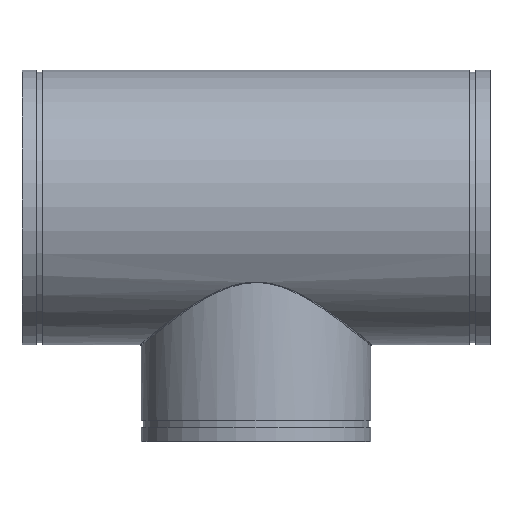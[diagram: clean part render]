
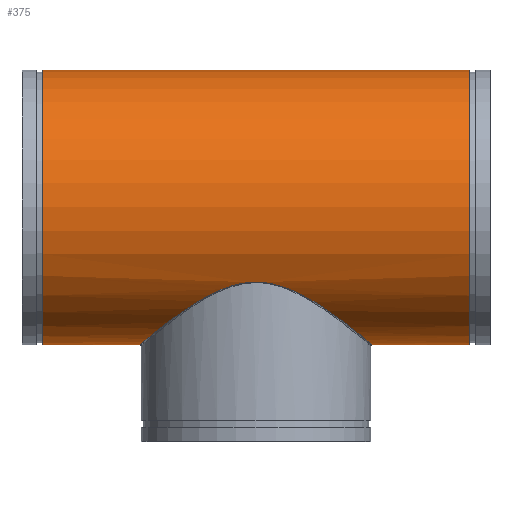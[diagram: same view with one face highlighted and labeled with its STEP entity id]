
A CAD part, top view. The second image highlights one B-rep face of the part: STEP entity #375.
In plain terms, the highlighted cylindrical face has radius 327.66 mm (diameter 655.32 mm), a full revolution.
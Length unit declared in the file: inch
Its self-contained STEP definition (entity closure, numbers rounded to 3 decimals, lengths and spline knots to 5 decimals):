
#54=FACE_BOUND('',#119,.T.);
#65=LINE('',#952,#76);
#76=VECTOR('',#483,12.9);
#87=CYLINDRICAL_SURFACE('',#415,12.9);
#98=FACE_OUTER_BOUND('',#118,.T.);
#118=EDGE_LOOP('',(#266,#267,#268,#269));
#119=EDGE_LOOP('',(#270));
#150=B_SPLINE_CURVE_WITH_KNOTS('',3,(#901,#902,#903,#904,#905,#906,#907,
#908,#909,#910,#911,#912,#913,#914,#915,#916,#917,#918,#919,#920,#921,#922,
#923,#924,#925,#926,#927,#928,#929,#930,#931,#932,#933,#934,#935,#936,#937,
#938,#939,#940,#941,#942,#943,#944,#945,#946,#947),.UNSPECIFIED.,.T.,.F.,
(4,1,1,1,1,1,1,1,1,1,1,1,1,1,1,1,1,1,1,1,1,1,1,1,1,1,1,1,1,1,1,1,1,1,1,
1,1,1,1,1,1,1,1,1,4),(-179.33943,-176.13694,-172.93445,
-169.73196,-166.52947,-160.12449,-153.71951,-146.60287,
-145.17954,-140.90955,-136.63957,-132.36958,
-128.09959,-123.82961,-119.55962,-111.01965,
-106.74966,-102.47968,-100.34468,-99.27719,
-98.20969,-93.9397,-91.09305,-88.24639,
-85.39973,-81.12974,-76.85976,-72.58977,
-68.31978,-64.0498,-59.77981,-56.93315,
-51.23984,-46.96985,-42.69986,-38.42988,
-34.15989,-31.31323,-25.61992,-19.21494,
-12.80996,-9.60747,-6.40498,-3.20249,
0.),.UNSPECIFIED.);
#154=CIRCLE('',#416,12.9);
#155=CIRCLE('',#417,12.9);
#182=VERTEX_POINT('',#846);
#185=VERTEX_POINT('',#949);
#186=VERTEX_POINT('',#951);
#219=EDGE_CURVE('',#182,#182,#150,.T.);
#220=EDGE_CURVE('',#185,#185,#154,.T.);
#221=EDGE_CURVE('',#185,#186,#65,.T.);
#222=EDGE_CURVE('',#186,#186,#155,.T.);
#266=ORIENTED_EDGE('',*,*,#220,.T.);
#267=ORIENTED_EDGE('',*,*,#221,.T.);
#268=ORIENTED_EDGE('',*,*,#222,.T.);
#269=ORIENTED_EDGE('',*,*,#221,.F.);
#270=ORIENTED_EDGE('',*,*,#219,.F.);
#375=ADVANCED_FACE('',(#98,#54),#87,.T.);
#415=AXIS2_PLACEMENT_3D('',#948,#479,#480);
#416=AXIS2_PLACEMENT_3D('',#950,#481,#482);
#417=AXIS2_PLACEMENT_3D('',#953,#484,#485);
#479=DIRECTION('center_axis',(-1.,0.,0.));
#480=DIRECTION('ref_axis',(0.,-1.,0.));
#481=DIRECTION('center_axis',(1.,0.,0.));
#482=DIRECTION('ref_axis',(0.,-1.,0.));
#483=DIRECTION('',(1.,0.,0.));
#484=DIRECTION('center_axis',(-1.,0.,0.));
#485=DIRECTION('ref_axis',(0.,-1.,0.));
#846=CARTESIAN_POINT('',(0.,-7.02384,-10.82015));
#901=CARTESIAN_POINT('Ctrl Pts',(0.,-7.02384,
-10.82015));
#902=CARTESIAN_POINT('Ctrl Pts',(0.43724,-7.02384,-10.82015));
#903=CARTESIAN_POINT('Ctrl Pts',(1.31136,-7.10574,-10.76755));
#904=CARTESIAN_POINT('Ctrl Pts',(2.56391,-7.44056,-10.54204));
#905=CARTESIAN_POINT('Ctrl Pts',(3.73491,-7.9176,-10.19145));
#906=CARTESIAN_POINT('Ctrl Pts',(5.1868,-8.66856,-9.57764));
#907=CARTESIAN_POINT('Ctrl Pts',(6.81476,-9.7138,-8.55831));
#908=CARTESIAN_POINT('Ctrl Pts',(8.54422,-10.98211,-6.89177));
#909=CARTESIAN_POINT('Ctrl Pts',(9.56767,-11.7928,-5.32123));
#910=CARTESIAN_POINT('Ctrl Pts',(10.24387,-12.33865,-3.81846));
#911=CARTESIAN_POINT('Ctrl Pts',(10.65768,-12.67819,-2.57484));
#912=CARTESIAN_POINT('Ctrl Pts',(10.93655,-12.90959,-0.87104));
#913=CARTESIAN_POINT('Ctrl Pts',(10.93667,-12.9096,0.87063));
#914=CARTESIAN_POINT('Ctrl Pts',(10.65766,-12.67829,2.57434));
#915=CARTESIAN_POINT('Ctrl Pts',(10.12598,-12.24173,4.17371));
#916=CARTESIAN_POINT('Ctrl Pts',(9.12775,-11.44104,6.11222));
#917=CARTESIAN_POINT('Ctrl Pts',(7.77802,-10.40149,7.71606));
#918=CARTESIAN_POINT('Ctrl Pts',(6.16944,-9.29354,8.97286));
#919=CARTESIAN_POINT('Ctrl Pts',(5.05636,-8.61137,9.61572));
#920=CARTESIAN_POINT('Ctrl Pts',(4.21912,-8.16797,9.98676));
#921=CARTESIAN_POINT('Ctrl Pts',(3.72266,-7.93041,10.1752));
#922=CARTESIAN_POINT('Ctrl Pts',(2.96072,-7.59359,10.43312));
#923=CARTESIAN_POINT('Ctrl Pts',(1.92651,-7.23534,10.68218));
#924=CARTESIAN_POINT('Ctrl Pts',(0.58585,-7.01601,10.82526));
#925=CARTESIAN_POINT('Ctrl Pts',(-0.58569,-7.0161,10.82524));
#926=CARTESIAN_POINT('Ctrl Pts',(-1.9265,-7.23521,10.68222));
#927=CARTESIAN_POINT('Ctrl Pts',(-3.36491,-7.73386,10.3357));
#928=CARTESIAN_POINT('Ctrl Pts',(-4.83376,-8.47498,9.74413));
#929=CARTESIAN_POINT('Ctrl Pts',(-6.1687,-9.29322,8.9734));
#930=CARTESIAN_POINT('Ctrl Pts',(-7.37654,-10.12457,8.02981));
#931=CARTESIAN_POINT('Ctrl Pts',(-8.4519,-10.92112,6.91491));
#932=CARTESIAN_POINT('Ctrl Pts',(-9.27499,-11.56111,5.77019));
#933=CARTESIAN_POINT('Ctrl Pts',(-10.05231,-12.18165,4.34531));
#934=CARTESIAN_POINT('Ctrl Pts',(-10.62677,-12.65255,2.76429));
#935=CARTESIAN_POINT('Ctrl Pts',(-10.93656,-12.90956,0.87092));
#936=CARTESIAN_POINT('Ctrl Pts',(-10.9366,-12.90962,-0.87064));
#937=CARTESIAN_POINT('Ctrl Pts',(-10.6578,-12.67828,-2.57438));
#938=CARTESIAN_POINT('Ctrl Pts',(-10.1848,-12.29023,-3.996));
#939=CARTESIAN_POINT('Ctrl Pts',(-9.47279,-11.71703,-5.47431));
#940=CARTESIAN_POINT('Ctrl Pts',(-8.42105,-10.8917,-7.01029));
#941=CARTESIAN_POINT('Ctrl Pts',(-6.81458,-9.71373,-8.55855));
#942=CARTESIAN_POINT('Ctrl Pts',(-5.18729,-8.66883,-9.57731));
#943=CARTESIAN_POINT('Ctrl Pts',(-3.73478,-7.91753,-10.19156));
#944=CARTESIAN_POINT('Ctrl Pts',(-2.56394,-7.44058,-10.54199));
#945=CARTESIAN_POINT('Ctrl Pts',(-1.31135,-7.10573,-10.76757));
#946=CARTESIAN_POINT('Ctrl Pts',(-0.43724,-7.02384,-10.82015));
#947=CARTESIAN_POINT('Ctrl Pts',(0.,-7.02384,
-10.82015));
#948=CARTESIAN_POINT('Origin',(22.,0.,0.));
#949=CARTESIAN_POINT('',(-20.035,12.9,0.));
#950=CARTESIAN_POINT('Origin',(-20.035,0.,0.));
#951=CARTESIAN_POINT('',(20.035,12.9,0.));
#952=CARTESIAN_POINT('',(22.,12.9,0.));
#953=CARTESIAN_POINT('Origin',(20.035,0.,0.));
